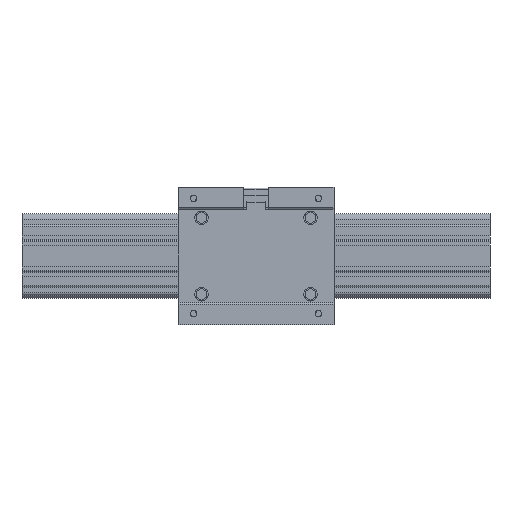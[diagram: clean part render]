
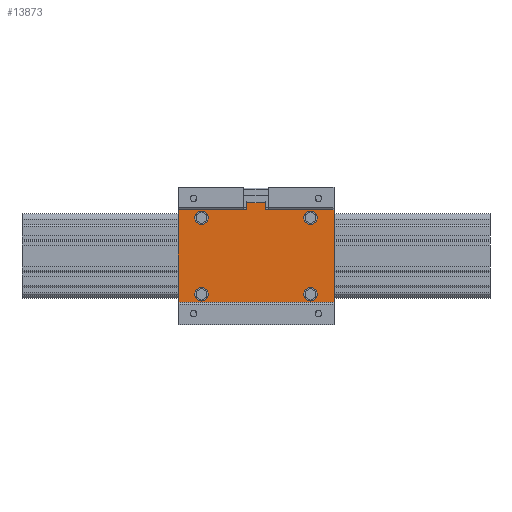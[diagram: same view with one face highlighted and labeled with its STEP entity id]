
A CAD part, top view. The second image highlights one B-rep face of the part: STEP entity #13873.
In plain terms, the highlighted planar face has unit normal (0, 0, 1).
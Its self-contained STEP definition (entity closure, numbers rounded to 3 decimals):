
#7178=CARTESIAN_POINT('',(80.65,-24.5,13.6));
#7179=VERTEX_POINT('',#7178);
#7180=CARTESIAN_POINT('',(85.0,-24.5,13.6));
#7181=DIRECTION('',(0.0,0.,-1.0));
#7182=DIRECTION('',(-1.0,0.0,0.0));
#7183=AXIS2_PLACEMENT_3D('',#7180,#7181,#7182);
#7184=CIRCLE('',#7183,4.35);
#7185=EDGE_CURVE('',#7179,#7179,#7184,.T.);
#7274=CARTESIAN_POINT('',(10.65,-24.5,13.6));
#7275=VERTEX_POINT('',#7274);
#7276=CARTESIAN_POINT('',(15.0,-24.5,13.6));
#7277=DIRECTION('',(0.0,0.,-1.0));
#7278=DIRECTION('',(-1.0,0.0,0.0));
#7279=AXIS2_PLACEMENT_3D('',#7276,#7277,#7278);
#7280=CIRCLE('',#7279,4.35);
#7281=EDGE_CURVE('',#7275,#7275,#7280,.T.);
#7370=CARTESIAN_POINT('',(80.65,24.5,13.6));
#7371=VERTEX_POINT('',#7370);
#7372=CARTESIAN_POINT('',(85.0,24.5,13.6));
#7373=DIRECTION('',(0.0,0.,-1.0));
#7374=DIRECTION('',(-1.0,0.0,0.0));
#7375=AXIS2_PLACEMENT_3D('',#7372,#7373,#7374);
#7376=CIRCLE('',#7375,4.35);
#7377=EDGE_CURVE('',#7371,#7371,#7376,.T.);
#7652=CARTESIAN_POINT('',(10.65,24.5,13.6));
#7653=VERTEX_POINT('',#7652);
#7654=CARTESIAN_POINT('',(15.0,24.5,13.6));
#7655=DIRECTION('',(0.0,0.,-1.0));
#7656=DIRECTION('',(-1.0,0.0,0.0));
#7657=AXIS2_PLACEMENT_3D('',#7654,#7655,#7656);
#7658=CIRCLE('',#7657,4.35);
#7659=EDGE_CURVE('',#7653,#7653,#7658,.T.);
#12909=CARTESIAN_POINT('',(44.0,29.7,13.6));
#12910=VERTEX_POINT('',#12909);
#12917=CARTESIAN_POINT('',(44.0,34.,13.6));
#12918=VERTEX_POINT('',#12917);
#12919=CARTESIAN_POINT('',(44.0,34.,13.6));
#12920=DIRECTION('',(0.0,-1.0,0.));
#12921=VECTOR('',#12920,4.3);
#12922=LINE('',#12919,#12921);
#12923=EDGE_CURVE('',#12918,#12910,#12922,.T.);
#12956=CARTESIAN_POINT('',(56.,34.,13.6));
#12957=VERTEX_POINT('',#12956);
#12974=CARTESIAN_POINT('',(56.,34.,13.6));
#12975=DIRECTION('',(-1.0,0.0,0.0));
#12976=VECTOR('',#12975,12.);
#12977=LINE('',#12974,#12976);
#12978=EDGE_CURVE('',#12957,#12918,#12977,.T.);
#13098=CARTESIAN_POINT('',(56.,29.7,13.6));
#13099=VERTEX_POINT('',#13098);
#13100=CARTESIAN_POINT('',(56.,29.7,13.6));
#13101=DIRECTION('',(0.0,1.0,0.));
#13102=VECTOR('',#13101,4.3);
#13103=LINE('',#13100,#13102);
#13104=EDGE_CURVE('',#13099,#12957,#13103,.T.);
#13129=CARTESIAN_POINT('',(42.0,29.7,13.6));
#13130=VERTEX_POINT('',#13129);
#13137=CARTESIAN_POINT('',(42.0,29.7,13.6));
#13138=DIRECTION('',(1.0,0.0,0.0));
#13139=VECTOR('',#13138,2.0);
#13140=LINE('',#13137,#13139);
#13141=EDGE_CURVE('',#13130,#12910,#13140,.T.);
#13152=CARTESIAN_POINT('',(58.,29.7,13.6));
#13153=VERTEX_POINT('',#13152);
#13154=CARTESIAN_POINT('',(56.,29.7,13.6));
#13155=DIRECTION('',(1.0,0.0,0.0));
#13156=VECTOR('',#13155,2.0);
#13157=LINE('',#13154,#13156);
#13158=EDGE_CURVE('',#13099,#13153,#13157,.T.);
#13634=CARTESIAN_POINT('',(100.0,29.7,13.6));
#13635=VERTEX_POINT('',#13634);
#13636=CARTESIAN_POINT('',(58.,29.7,13.6));
#13637=DIRECTION('',(1.0,0.0,0.0));
#13638=VECTOR('',#13637,42.);
#13639=LINE('',#13636,#13638);
#13640=EDGE_CURVE('',#13153,#13635,#13639,.T.);
#13799=CARTESIAN_POINT('',(100.0,-29.7,13.6));
#13800=VERTEX_POINT('',#13799);
#13808=CARTESIAN_POINT('',(0.0,-29.7,13.6));
#13809=VERTEX_POINT('',#13808);
#13810=CARTESIAN_POINT('',(0.0,-29.7,13.6));
#13811=DIRECTION('',(1.0,0.0,0.0));
#13812=VECTOR('',#13811,100.0);
#13813=LINE('',#13810,#13812);
#13814=EDGE_CURVE('',#13809,#13800,#13813,.T.);
#13827=CARTESIAN_POINT('',(0.0,-29.7,13.6));
#13828=DIRECTION('',(0.0,0.,1.0));
#13829=DIRECTION('',(1.0,0.0,0.0));
#13830=AXIS2_PLACEMENT_3D('',#13827,#13828,#13829);
#13831=PLANE('',#13830);
#13832=CARTESIAN_POINT('',(100.0,-29.7,13.6));
#13833=DIRECTION('',(0.0,1.0,0.));
#13834=VECTOR('',#13833,59.4);
#13835=LINE('',#13832,#13834);
#13836=EDGE_CURVE('',#13800,#13635,#13835,.T.);
#13837=ORIENTED_EDGE('',*,*,#13836,.T.);
#13838=ORIENTED_EDGE('',*,*,#13640,.F.);
#13839=ORIENTED_EDGE('',*,*,#13158,.F.);
#13840=ORIENTED_EDGE('',*,*,#13104,.T.);
#13841=ORIENTED_EDGE('',*,*,#12978,.T.);
#13842=ORIENTED_EDGE('',*,*,#12923,.T.);
#13843=ORIENTED_EDGE('',*,*,#13141,.F.);
#13844=CARTESIAN_POINT('',(0.0,29.7,13.6));
#13845=VERTEX_POINT('',#13844);
#13846=CARTESIAN_POINT('',(0.0,29.7,13.6));
#13847=DIRECTION('',(1.0,0.0,0.0));
#13848=VECTOR('',#13847,42.0);
#13849=LINE('',#13846,#13848);
#13850=EDGE_CURVE('',#13845,#13130,#13849,.T.);
#13851=ORIENTED_EDGE('',*,*,#13850,.F.);
#13852=CARTESIAN_POINT('',(0.0,-29.7,13.6));
#13853=DIRECTION('',(0.0,1.0,0.));
#13854=VECTOR('',#13853,59.4);
#13855=LINE('',#13852,#13854);
#13856=EDGE_CURVE('',#13809,#13845,#13855,.T.);
#13857=ORIENTED_EDGE('',*,*,#13856,.F.);
#13858=ORIENTED_EDGE('',*,*,#13814,.T.);
#13859=EDGE_LOOP('',(#13837,#13838,#13839,#13840,#13841,#13842,#13843,#13851,#13857,#13858));
#13860=FACE_OUTER_BOUND('',#13859,.T.);
#13861=ORIENTED_EDGE('',*,*,#7185,.T.);
#13862=EDGE_LOOP('',(#13861));
#13863=FACE_BOUND('',#13862,.T.);
#13864=ORIENTED_EDGE('',*,*,#7281,.T.);
#13865=EDGE_LOOP('',(#13864));
#13866=FACE_BOUND('',#13865,.T.);
#13867=ORIENTED_EDGE('',*,*,#7377,.T.);
#13868=EDGE_LOOP('',(#13867));
#13869=FACE_BOUND('',#13868,.T.);
#13870=ORIENTED_EDGE('',*,*,#7659,.T.);
#13871=EDGE_LOOP('',(#13870));
#13872=FACE_BOUND('',#13871,.T.);
#13873=ADVANCED_FACE('',(#13860,#13863,#13866,#13869,#13872),#13831,.T.);
